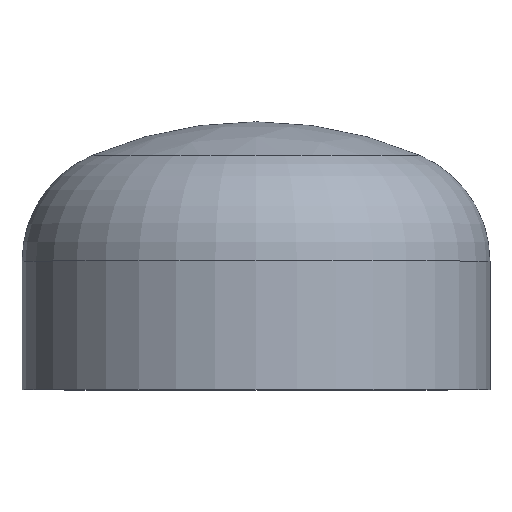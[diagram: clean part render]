
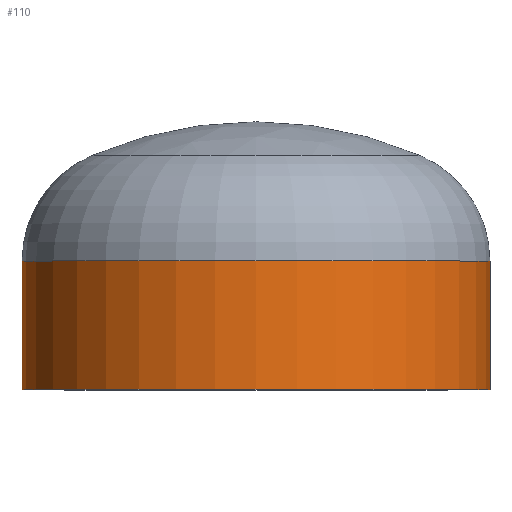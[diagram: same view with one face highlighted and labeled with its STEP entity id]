
A CAD part, top view. The second image highlights one B-rep face of the part: STEP entity #110.
In plain terms, the highlighted cylindrical face has radius 136.5 mm (diameter 273 mm), a partial arc.
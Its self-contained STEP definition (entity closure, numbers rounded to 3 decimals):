
#19 = AXIS2_PLACEMENT_3D ( 'NONE', #235, #204, #211 ) ;
#27 = EDGE_LOOP ( 'NONE', ( #60, #340, #109, #146 ) ) ;
#29 = VERTEX_POINT ( 'NONE', #293 ) ;
#50 = VERTEX_POINT ( 'NONE', #250 ) ;
#53 = AXIS2_PLACEMENT_3D ( 'NONE', #212, #350, #348 ) ;
#60 = ORIENTED_EDGE ( 'NONE', *, *, #76, .T. ) ;
#68 = FACE_OUTER_BOUND ( 'NONE', #27, .T. ) ;
#76 = EDGE_CURVE ( 'NONE', #50, #130, #199, .T. ) ;
#80 = AXIS2_PLACEMENT_3D ( 'NONE', #166, #381, #188 ) ;
#109 = ORIENTED_EDGE ( 'NONE', *, *, #354, .F. ) ;
#110 = ADVANCED_FACE ( 'NONE', ( #68 ), #249, .T. ) ;
#127 = LINE ( 'NONE', #246, #389 ) ;
#130 = VERTEX_POINT ( 'NONE', #275 ) ;
#133 = VERTEX_POINT ( 'NONE', #273 ) ;
#143 = CIRCLE ( 'NONE', #80, 136.5 ) ;
#146 = ORIENTED_EDGE ( 'NONE', *, *, #367, .F. ) ;
#165 = DIRECTION ( 'NONE',  ( 0., -1., 0. ) ) ;
#166 = CARTESIAN_POINT ( 'NONE',  ( 0., 0., 0. ) ) ;
#188 = DIRECTION ( 'NONE',  ( 1., 0., 0. ) ) ;
#199 = CIRCLE ( 'NONE', #53, 136.5 ) ;
#204 = DIRECTION ( 'NONE',  ( 0., -1., 0. ) ) ;
#207 = LINE ( 'NONE', #352, #267 ) ;
#211 = DIRECTION ( 'NONE',  ( 1., 0., 0. ) ) ;
#212 = CARTESIAN_POINT ( 'NONE',  ( 0., 75., 0. ) ) ;
#235 = CARTESIAN_POINT ( 'NONE',  ( 0., 0., 0. ) ) ;
#246 = CARTESIAN_POINT ( 'NONE',  ( -136.5, 0., 0. ) ) ;
#249 = CYLINDRICAL_SURFACE ( 'NONE', #19, 136.5 ) ;
#250 = CARTESIAN_POINT ( 'NONE',  ( 136.5, 75., 0. ) ) ;
#267 = VECTOR ( 'NONE', #165, 1000. ) ;
#273 = CARTESIAN_POINT ( 'NONE',  ( 136.5, 0., 0. ) ) ;
#275 = CARTESIAN_POINT ( 'NONE',  ( -136.5, 75., 0. ) ) ;
#293 = CARTESIAN_POINT ( 'NONE',  ( -136.5, 0., 0. ) ) ;
#308 = DIRECTION ( 'NONE',  ( 0., -1., 0. ) ) ;
#340 = ORIENTED_EDGE ( 'NONE', *, *, #359, .T. ) ;
#348 = DIRECTION ( 'NONE',  ( 1., 0., 0. ) ) ;
#350 = DIRECTION ( 'NONE',  ( 0., -1., 0. ) ) ;
#352 = CARTESIAN_POINT ( 'NONE',  ( 136.5, 0., 0. ) ) ;
#354 = EDGE_CURVE ( 'NONE', #133, #29, #143, .T. ) ;
#359 = EDGE_CURVE ( 'NONE', #130, #29, #127, .T. ) ;
#367 = EDGE_CURVE ( 'NONE', #50, #133, #207, .T. ) ;
#381 = DIRECTION ( 'NONE',  ( 0., -1., 0. ) ) ;
#389 = VECTOR ( 'NONE', #308, 1000. ) ;
